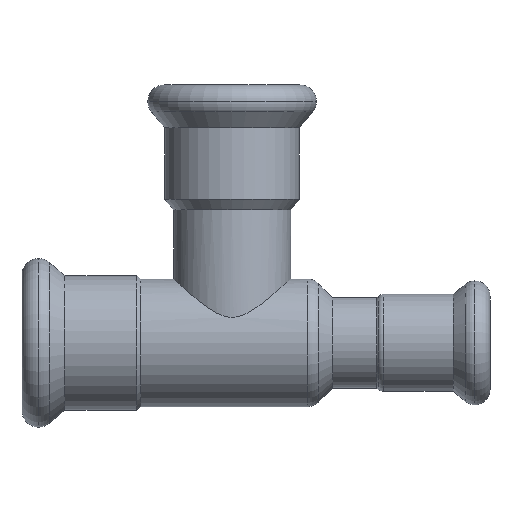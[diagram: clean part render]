
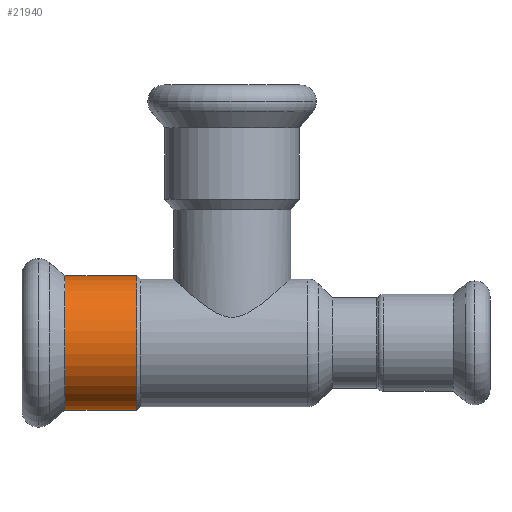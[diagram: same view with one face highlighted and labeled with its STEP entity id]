
A CAD part, top view. The second image highlights one B-rep face of the part: STEP entity #21940.
In plain terms, the highlighted cylindrical face has radius 12.65 mm (diameter 25.3 mm), a partial arc.
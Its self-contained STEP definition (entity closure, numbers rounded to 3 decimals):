
#6580=CARTESIAN_POINT('',(-350.749,3.785,0.));
#6590=VERTEX_POINT('',#6580);
#6770=CARTESIAN_POINT('',(-350.749,29.085,
0.));
#6780=VERTEX_POINT('',#6770);
#6810=CARTESIAN_POINT('',(-350.749,16.435,0.));
#6820=DIRECTION('',(-1.,0.,0.));
#6830=DIRECTION('',(0.,1.,0.));
#6840=AXIS2_PLACEMENT_3D('',#6810,#6820,#6830);
#6850=CIRCLE('',#6840,12.65);
#6860=EDGE_CURVE('',#6590,#6780,#6850,.T.);
#12470=CARTESIAN_POINT('',(-337.257,29.085,
0.));
#12480=VERTEX_POINT('',#12470);
#12510=CARTESIAN_POINT('',(-337.257,16.435,0.));
#12520=DIRECTION('',(-1.,0.,0.));
#12530=DIRECTION('',(0.,1.,0.));
#12540=AXIS2_PLACEMENT_3D('',#12510,#12520,#12530);
#12550=CIRCLE('',#12540,12.65);
#12560=CARTESIAN_POINT('',(-337.257,3.785,0.));
#12570=VERTEX_POINT('',#12560);
#21720=CARTESIAN_POINT('',(-343.997,16.435,0.));
#21730=DIRECTION('',(1.,0.,0.));
#21740=DIRECTION('',(0.,1.,0.));
#21750=AXIS2_PLACEMENT_3D('',#21720,#21730,#21740);
#21760=CYLINDRICAL_SURFACE('',#21750,12.65);
#21770=CARTESIAN_POINT('',(-343.997,3.785,
0.));
#21780=DIRECTION('',(1.,0.,0.));
#21790=VECTOR('',#21780,1.);
#21800=LINE('',#21770,#21790);
#21810=EDGE_CURVE('',#6590,#12570,#21800,.T.);
#21820=ORIENTED_EDGE('',*,*,#21810,.T.);
#21830=ORIENTED_EDGE('',*,*,#6860,.F.);
#21840=CARTESIAN_POINT('',(-343.997,29.085,0.));
#21850=DIRECTION('',(1.,0.,0.));
#21860=VECTOR('',#21850,1.);
#21870=LINE('',#21840,#21860);
#21880=EDGE_CURVE('',#6780,#12480,#21870,.T.);
#21890=ORIENTED_EDGE('',*,*,#21880,.F.);
#21900=EDGE_CURVE('',#12570,#12480,#12550,.T.);
#21910=ORIENTED_EDGE('',*,*,#21900,.T.);
#21920=EDGE_LOOP('',(#21910,#21890,#21830,#21820));
#21930=FACE_OUTER_BOUND('',#21920,.T.);
#21940=ADVANCED_FACE('',(#21930),#21760,.T.);
